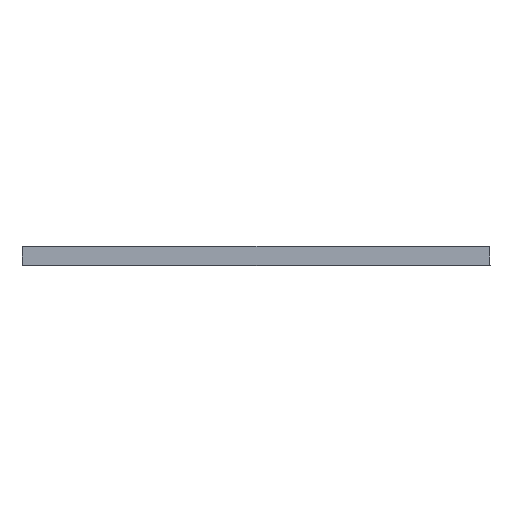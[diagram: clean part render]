
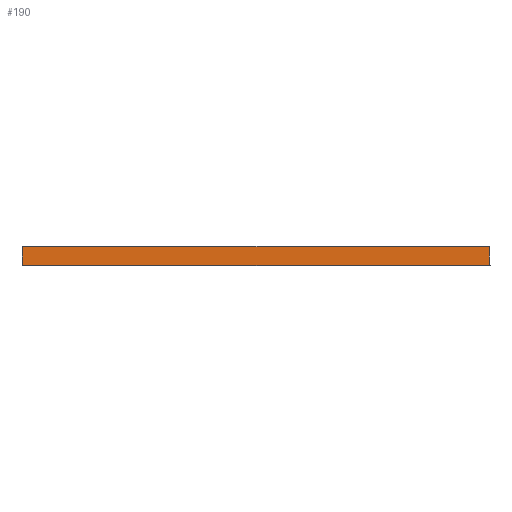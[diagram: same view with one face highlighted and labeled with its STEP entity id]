
A CAD part, front view. The second image highlights one B-rep face of the part: STEP entity #190.
In plain terms, the highlighted planar face has unit normal (0, -1, 0.009).
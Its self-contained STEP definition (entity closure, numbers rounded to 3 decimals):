
#190=ADVANCED_FACE('',(#310),#1936,.T.);
#310=FACE_OUTER_BOUND('',#481,.T.);
#481=EDGE_LOOP('',(#1012,#1013,#1014,#1015));
#1012=ORIENTED_EDGE('',*,*,#1386,.T.);
#1013=ORIENTED_EDGE('',*,*,#1374,.T.);
#1014=ORIENTED_EDGE('',*,*,#1388,.T.);
#1015=ORIENTED_EDGE('',*,*,#1375,.T.);
#1374=EDGE_CURVE('',#1894,#1895,#1494,.T.);
#1375=EDGE_CURVE('',#1896,#1893,#1495,.T.);
#1386=EDGE_CURVE('',#1893,#1894,#1505,.T.);
#1388=EDGE_CURVE('',#1895,#1896,#1506,.T.);
#1494=B_SPLINE_CURVE_WITH_KNOTS('',1,(#15432,#15433),.UNSPECIFIED.,.F.,
 .F.,(2,2),(0.,797.441),.UNSPECIFIED.);
#1495=B_SPLINE_CURVE_WITH_KNOTS('',1,(#15434,#15435),.UNSPECIFIED.,.F.,
 .F.,(2,2),(0.,797.982),.UNSPECIFIED.);
#1505=B_SPLINE_CURVE_WITH_KNOTS('',1,(#15484,#15485),.UNSPECIFIED.,.F.,
 .F.,(2,2),(-31.002,0.),.UNSPECIFIED.);
#1506=B_SPLINE_CURVE_WITH_KNOTS('',1,(#15489,#15490),.UNSPECIFIED.,.F.,
 .F.,(2,2),(-31.002,0.),.UNSPECIFIED.);
#1893=VERTEX_POINT('',#14704);
#1894=VERTEX_POINT('',#14705);
#1895=VERTEX_POINT('',#14706);
#1896=VERTEX_POINT('',#14707);
#1936=PLANE('',#2186);
#2186=AXIS2_PLACEMENT_3D('',#3968,#2288,$);
#2288=DIRECTION('',(0.,-1.,0.009));
#3968=CARTESIAN_POINT('',(1.009,-299.721,29.009));
#14704=CARTESIAN_POINT('',(798.991,-299.991,-1.991));
#14705=CARTESIAN_POINT('',(798.721,-299.721,29.009));
#14706=CARTESIAN_POINT('',(1.279,-299.721,29.009));
#14707=CARTESIAN_POINT('',(1.009,-299.991,-1.991));
#15432=CARTESIAN_POINT('',(798.721,-299.721,29.009));
#15433=CARTESIAN_POINT('',(1.279,-299.721,29.009));
#15434=CARTESIAN_POINT('',(1.009,-299.991,-1.991));
#15435=CARTESIAN_POINT('',(798.991,-299.991,-1.991));
#15484=CARTESIAN_POINT('',(798.991,-299.991,-1.991));
#15485=CARTESIAN_POINT('',(798.721,-299.721,29.009));
#15489=CARTESIAN_POINT('',(1.279,-299.721,29.009));
#15490=CARTESIAN_POINT('',(1.009,-299.991,-1.991));
